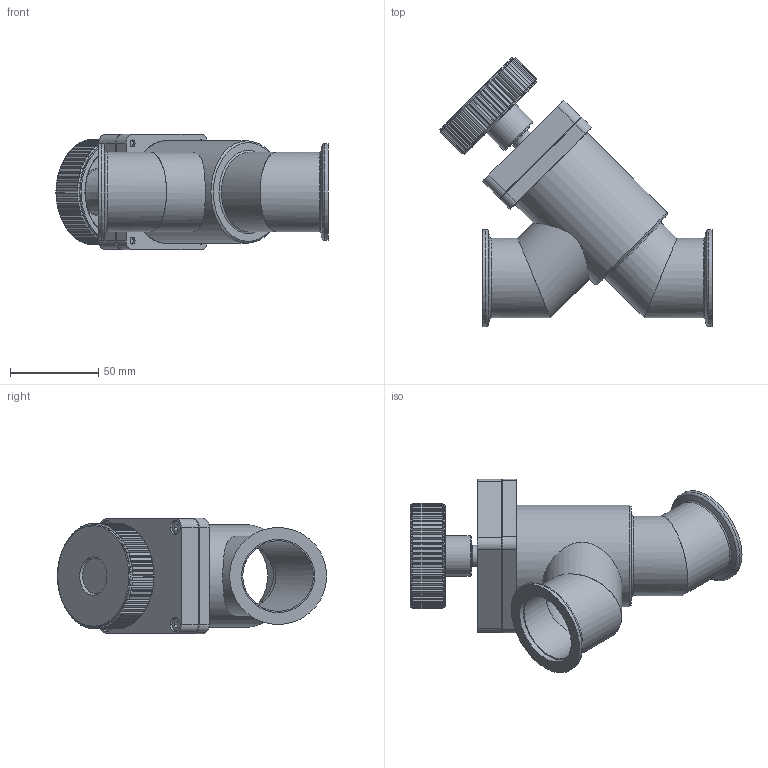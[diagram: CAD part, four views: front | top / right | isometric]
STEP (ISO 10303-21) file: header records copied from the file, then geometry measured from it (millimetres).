
FILE_DESCRIPTION(/* description */ (''),/* implementation_level */ '2;1');
FILE_NAME(/* name */ '1195188400_203.stp',/* time_stamp */ '2010-09-23T15:26:25+02:00',/* author */ (''),/* organization */ (''),/* preprocessor_version */ 'ST-DEVELOPER v11',/* originating_system */ 'SIEMENS UGS NX 6.0',/* authorisation */ '');
FILE_SCHEMA (('CONFIG_CONTROL_DESIGN'));
Length unit declared in the file: millimetre
Products named in the file (10): 256781.4; 262275.1; 256782.3; 240512.10; 245913; 224790.1; 245853.7; 245854.4; 256783.9; 256785.16
Assembly tree (13 placements, depth 3):
  256785.16
    245854.4
    245853.7
    224790.1  x4
    256783.9
      240512.10
      256782.3
      262275.1  x2
      256781.4
    245913
Bounding box: 154.04 x 152.35 x 65.4 mm (x, y, z)
Volume: 171079 mm3; surface area: 105647.5 mm2
Topology: 20 solids, 20 shells, 632 faces, 1381 edges, 819 vertices
Faces by surface type: plane 268, cylinder 174, cone 166, torus 20, bspline 4
Full cylindrical faces by diameter (mm): 3.26 x4, 3.3 x4, 4 x12, 4.5 x4, 5.955 x1, 7 x4, 8 x7, 8.04 x1, 8.8 x1, 10 x1, 12 x3, 12.05 x1, 12.2 x1, 15.8 x1, 16 x1, 23 x1, 40 x5, 41.3 x2, 45 x4, 50 x1, 54 x1, 54.9 x2, 57.9 x1, 58 x2, 58.3 x1, 60.9 x1, 62.8 x1
Entity records: 16735 total; most frequent: CARTESIAN_POINT 3709, DIRECTION 2480, ORIENTED_EDGE 2322, EDGE_CURVE 1161, AXIS2_PLACEMENT_3D 1061, VERTEX_POINT 730, EDGE_LOOP 708, ADVANCED_FACE 565
